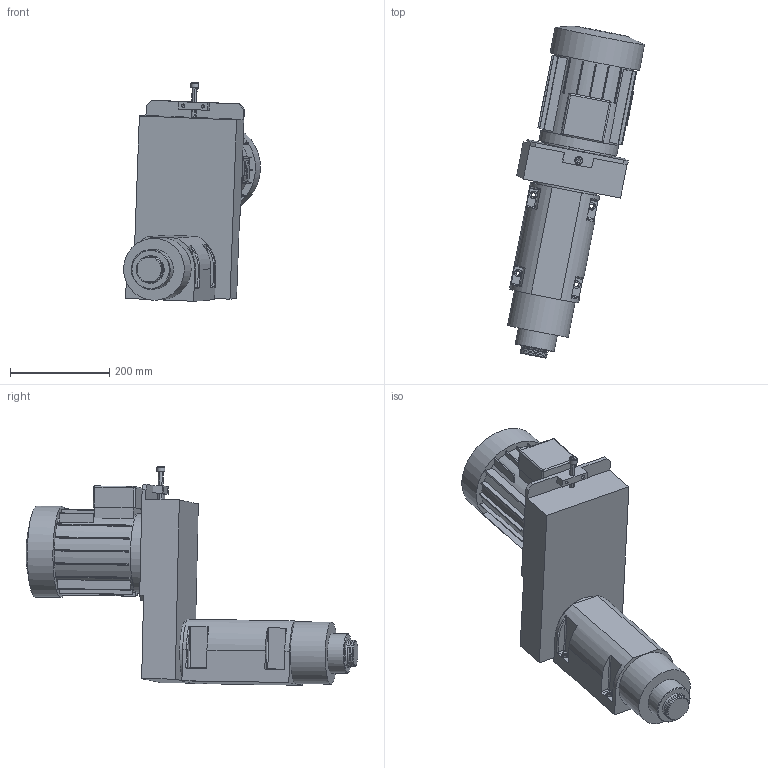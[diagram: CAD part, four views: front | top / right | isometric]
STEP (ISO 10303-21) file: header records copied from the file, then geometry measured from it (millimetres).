
FILE_DESCRIPTION((''),'2;1');
FILE_NAME('C:\VaultWork\Zeichnungen\Maßblätter\BF3b\BF01377-2-0 Maßblatt BF3b-HSK-C-Gr.50 Z-Laterne.stp','2009-05-28T15:07:21',('Test'),(''),'Autodesk Inventor 2008','Autodesk Inventor 2008','');
FILE_SCHEMA(('AUTOMOTIVE_DESIGN { 1 0 10303 214 1 1 1 1 }'));
Length unit declared in the file: millimetre
Products named in the file (1): BF01377-2-0  Maßblatt BF3b-HSK-C-Gr.50 Z-Laterne
Bounding box: 276.28 x 669.82 x 441.12 mm (x, y, z)
Volume: 15557752.2 mm3; surface area: 672016.1 mm2
Topology: 7 solids, 7 shells, 326 faces, 816 edges, 519 vertices
Faces by surface type: plane 188, cylinder 83, bspline 35, cone 10, torus 6, sphere 4
Full cylindrical faces by diameter (mm): 4 x1, 8 x6, 10 x2, 16 x1, 27 x1, 50 x2, 54 x2, 80 x1, 88 x1, 125 x2, 140 x1, 158 x1, 160 x1, 184 x1
Entity records: 11556 total; most frequent: CARTESIAN_POINT 3693, DIRECTION 1537, ORIENTED_EDGE 1470, EDGE_CURVE 735, AXIS2_PLACEMENT_3D 555, VERTEX_POINT 495, EDGE_LOOP 434, VECTOR 427
